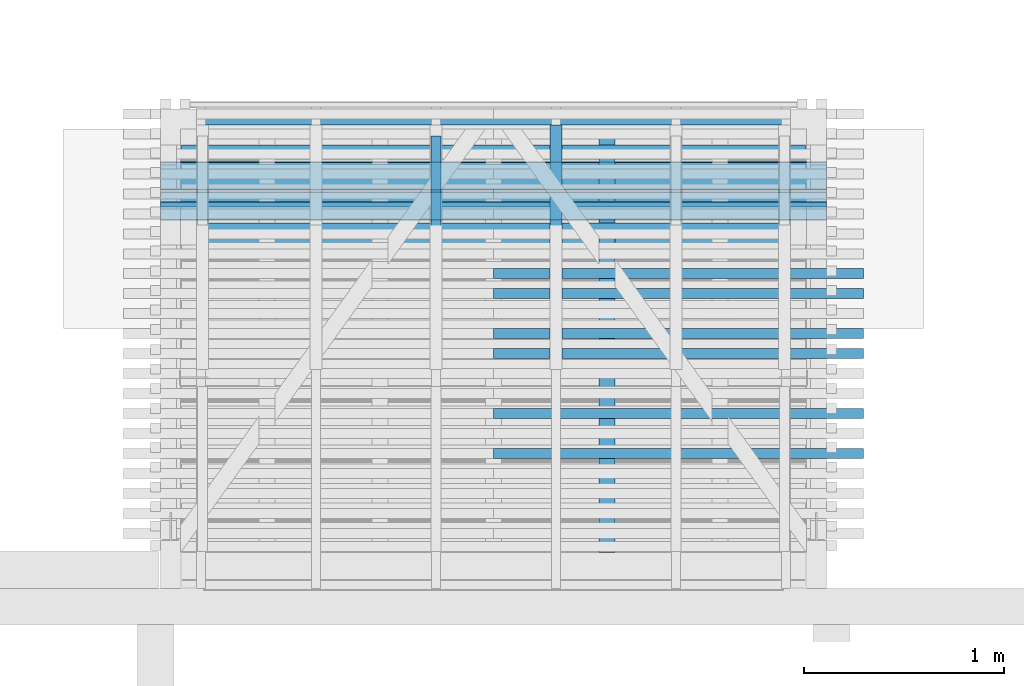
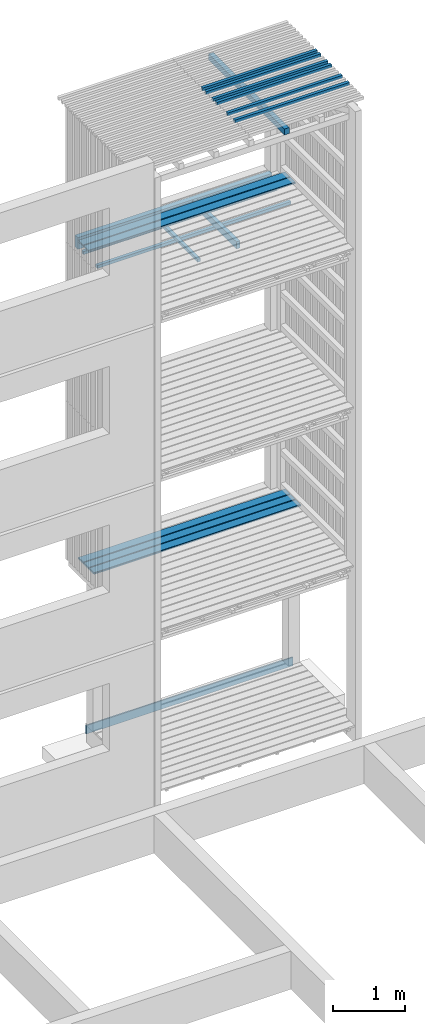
# One storey, part 124 of 182: 18 beams.
"""IFC2X3 building model written with IfcOpenShell, lengths in metres."""

from ifc_helpers import new_model, si_unit, frame, origin, place, context, project, spatial, faceted_brep, element, save


model = new_model("IFC2X3")

# Units and contexts
model_context = context("Model", 3, precision=1e-06, world=origin())
ifc_project = project(units=[si_unit("LENGTHUNIT", "METRE"), si_unit("PLANEANGLEUNIT", "RADIAN")], contexts=[model_context])

# Site, building, storey
site = spatial("IfcSite", under=ifc_project, CompositionType="ELEMENT")
building = spatial("IfcBuilding", under=site, CompositionType="ELEMENT")
storey = spatial("IfcBuildingStorey", under=building, Name="vs", CompositionType="ELEMENT", Elevation=-0.85)

# Beams
placement = place(None, origin())
beam_1_placement = place(placement, frame((54.40299999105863, 7.135077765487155, 7.91739999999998), z_axis=(0.0, 0.0, 1.0), x_axis=(0.0, -1.0, 0.0)))
element("IfcBeam", 1, at=beam_1_placement, inside=storey, Name="Calage", context=model_context, shape_type="Brep", body=[
    faceted_brep([(1.115000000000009, 0.024999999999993, 0.024999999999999), (1.115000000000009, -0.025000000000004, 0.024999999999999), (1.115000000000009, -0.025000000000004, -0.025), (1.115000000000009, 0.024999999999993, -0.025), (0.0, -0.025000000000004, -0.025), (0.0, -0.025000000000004, 0.024999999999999), (0.0, 0.024999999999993, 0.024999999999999), (0.0, 0.024999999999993, -0.025), (1.115000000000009, -0.025000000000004, 0.024999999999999), (1.115000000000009, 0.024999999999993, 0.024999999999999), (0.0, 0.024999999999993, 0.024999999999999), (0.0, -0.025000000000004, 0.024999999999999), (1.115000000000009, -0.025000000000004, -0.025), (1.115000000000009, -0.025000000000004, 0.024999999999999), (0.0, -0.025000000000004, 0.024999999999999), (0.0, -0.025000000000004, -0.025), (1.115000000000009, 0.024999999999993, -0.025), (1.115000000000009, -0.025000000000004, -0.025), (0.0, -0.025000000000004, -0.025), (0.0, 0.024999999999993, -0.025), (0.0, 0.024999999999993, 0.024999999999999), (1.115000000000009, 0.024999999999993, 0.024999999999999), (1.115000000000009, 0.024999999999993, -0.025), (0.0, 0.024999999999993, -0.025)], [[[0, 1, 2, 3]], [[4, 5, 6, 7]], [[8, 9, 10, 11]], [[12, 13, 14, 15]], [[16, 17, 18, 19]], [[20, 21, 22, 23]]]),
])
beam_2_placement = place(placement, frame((56.24999999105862, 7.06299443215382, 7.86739999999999), z_axis=(0.0, 0.0, 1.0), x_axis=(-1.0, -1e-15, 0.0)))
element("IfcBeam", 2, at=beam_2_placement, inside=storey, Name="Bardage", context=model_context, shape_type="Brep", body=[
    faceted_brep([(3.120000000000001, 0.024999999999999, -0.024999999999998), (3.120000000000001, 0.024999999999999, 0.025000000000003), (3.120000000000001, -0.025000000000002, 0.025000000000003), (3.120000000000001, -0.025000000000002, -0.024999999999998), (-3e-15, -0.024999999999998, -0.024999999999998), (-3e-15, -0.024999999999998, 0.025000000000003), (-3e-15, 0.025000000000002, 0.025000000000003), (-3e-15, 0.025000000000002, -0.024999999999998), (-3e-15, 0.025000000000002, -0.024999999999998), (-3e-15, 0.025000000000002, 0.025000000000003), (3.120000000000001, 0.024999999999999, 0.025000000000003), (3.120000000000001, 0.024999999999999, -0.024999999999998), (-3e-15, 0.025000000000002, 0.025000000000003), (-3e-15, -0.024999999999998, 0.025000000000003), (3.120000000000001, -0.025000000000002, 0.025000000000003), (3.120000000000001, 0.024999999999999, 0.025000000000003), (-3e-15, -0.024999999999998, 0.025000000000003), (-3e-15, -0.024999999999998, -0.024999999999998), (3.120000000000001, -0.025000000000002, -0.024999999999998), (3.120000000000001, -0.025000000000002, 0.025000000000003), (-3e-15, -0.024999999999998, -0.024999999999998), (-3e-15, 0.025000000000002, -0.024999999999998), (3.120000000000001, 0.024999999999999, -0.024999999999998), (3.120000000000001, -0.025000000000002, -0.024999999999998)], [[[0, 1, 2, 3]], [[4, 5, 6, 7]], [[8, 9, 10, 11]], [[12, 13, 14, 15]], [[16, 17, 18, 19]], [[20, 21, 22, 23]]]),
])
beam_3_placement = place(placement, frame((53.02499999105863, 6.793577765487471, -0.0575), z_axis=(0.0, 0.0, -1.0), x_axis=(1.0, 0.0, 0.0)))
element("IfcBeam", 3, at=beam_3_placement, inside=storey, Name="Caillebotis", context=model_context, shape_type="Brep", body=[
    faceted_brep([(2e-15, -0.008499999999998, -0.0725), (2e-15, -0.0135, -0.067500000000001), (2e-15, -0.0135, 0.067500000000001), (2e-15, -0.008500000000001, 0.0725), (2e-15, 0.013500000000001, 0.0725), (2e-15, 0.013500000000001, -0.0725), (3.329999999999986, 0.013499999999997, -0.0725), (3.329999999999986, 0.013499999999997, 0.0725), (3.329999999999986, -0.008500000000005, 0.0725), (3.329999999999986, -0.0135, 0.067500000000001), (3.329999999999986, -0.0135, -0.067500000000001), (3.329999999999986, -0.008500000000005, -0.0725), (2e-15, -0.0135, 0.067500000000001), (2e-15, -0.0135, -0.067500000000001), (3.329999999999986, -0.0135, -0.067500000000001), (3.329999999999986, -0.0135, 0.067500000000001), (2e-15, -0.008500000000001, 0.0725), (2e-15, -0.0135, 0.067500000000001), (3.329999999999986, -0.0135, 0.067500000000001), (3.329999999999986, -0.008500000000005, 0.0725), (2e-15, 0.013500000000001, 0.0725), (2e-15, -0.008500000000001, 0.0725), (3.329999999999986, -0.008500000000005, 0.0725), (3.329999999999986, 0.013499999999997, 0.0725), (2e-15, 0.013500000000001, -0.0725), (2e-15, 0.013500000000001, 0.0725), (3.329999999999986, 0.013499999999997, 0.0725), (3.329999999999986, 0.013499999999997, -0.0725), (2e-15, -0.008499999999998, -0.0725), (2e-15, 0.013500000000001, -0.0725), (3.329999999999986, 0.013499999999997, -0.0725), (3.329999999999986, -0.008500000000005, -0.0725), (3.329999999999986, -0.0135, -0.067500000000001), (2e-15, -0.0135, -0.067500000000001), (2e-15, -0.008499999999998, -0.0725), (3.329999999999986, -0.008500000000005, -0.0725)], [[[0, 1, 2, 3, 4, 5]], [[6, 7, 8, 9, 10, 11]], [[12, 13, 14, 15]], [[16, 17, 18, 19]], [[20, 21, 22, 23]], [[24, 25, 26, 27]], [[28, 29, 30, 31]], [[32, 33, 34, 35]]]),
])
beam_4_placement = place(placement, frame((56.24999999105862, 6.674661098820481, 7.86739999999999), z_axis=(0.0, 0.0, 1.0), x_axis=(-1.0, 0.0, 0.0)))
element("IfcBeam", 4, at=beam_4_placement, inside=storey, Name="Bardage", context=model_context, shape_type="Brep", body=[
    faceted_brep([(3.119999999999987, 0.024999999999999, 0.025000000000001), (3.119999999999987, -0.024999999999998, 0.025000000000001), (3.119999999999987, -0.024999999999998, -0.024999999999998), (3.119999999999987, 0.024999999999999, -0.024999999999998), (-3e-15, -0.025000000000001, 0.025000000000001), (-3e-15, 0.024999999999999, 0.025000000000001), (-3e-15, 0.024999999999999, -0.024999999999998), (-3e-15, -0.025000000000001, -0.024999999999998), (3.119999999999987, 0.024999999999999, -0.024999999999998), (3.119999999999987, -0.024999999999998, -0.024999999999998), (-3e-15, -0.025000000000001, -0.024999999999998), (-3e-15, 0.024999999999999, -0.024999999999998), (-3e-15, -0.025000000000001, -0.024999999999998), (3.119999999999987, -0.024999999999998, -0.024999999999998), (3.119999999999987, -0.024999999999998, 0.025000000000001), (-3e-15, -0.025000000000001, 0.025000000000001), (-3e-15, -0.025000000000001, 0.025000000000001), (3.119999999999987, -0.024999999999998, 0.025000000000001), (3.119999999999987, 0.024999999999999, 0.025000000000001), (-3e-15, 0.024999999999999, 0.025000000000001), (-3e-15, 0.024999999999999, 0.025000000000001), (3.119999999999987, 0.024999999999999, 0.025000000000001), (3.119999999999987, 0.024999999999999, -0.024999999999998), (-3e-15, 0.024999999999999, -0.024999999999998)], [[[0, 1, 2, 3]], [[4, 5, 6, 7]], [[8, 9, 10, 11]], [[12, 13, 14, 15]], [[16, 17, 18, 19]], [[20, 21, 22, 23]]]),
])
beam_5_placement = place(placement, frame((56.35499999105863, 6.934577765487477, 8.13349999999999), z_axis=(0.0, 0.0, 1.0), x_axis=(-1.0, -1e-15, 0.0)))
element("IfcBeam", 5, at=beam_5_placement, inside=storey, Name="Caillebotis", context=model_context, shape_type="Brep", body=[
    faceted_brep([(3.329999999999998, -0.072500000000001, -0.013500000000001), (3.329999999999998, 0.072500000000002, -0.013500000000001), (3.329999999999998, 0.072500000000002, 0.0085), (3.329999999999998, 0.067499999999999, 0.013499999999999), (3.329999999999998, -0.067499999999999, 0.013499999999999), (3.329999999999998, -0.072500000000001, 0.0085), (0.0, -0.072499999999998, 0.0085), (0.0, -0.067499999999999, 0.013499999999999), (0.0, 0.067500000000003, 0.013499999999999), (0.0, 0.072500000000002, 0.0085), (0.0, 0.072500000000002, -0.013500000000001), (0.0, -0.072499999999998, -0.013500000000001), (3.329999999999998, 0.072500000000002, 0.0085), (3.329999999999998, 0.072500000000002, -0.013500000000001), (0.0, 0.072500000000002, -0.013500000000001), (0.0, 0.072500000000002, 0.0085), (3.329999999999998, 0.067499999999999, 0.013499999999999), (3.329999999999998, 0.072500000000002, 0.0085), (0.0, 0.072500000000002, 0.0085), (0.0, 0.067500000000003, 0.013499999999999), (3.329999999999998, -0.067499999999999, 0.013499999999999), (3.329999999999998, 0.067499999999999, 0.013499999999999), (0.0, 0.067500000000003, 0.013499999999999), (0.0, -0.067499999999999, 0.013499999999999), (3.329999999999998, -0.072500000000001, 0.0085), (3.329999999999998, -0.067499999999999, 0.013499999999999), (0.0, -0.067499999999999, 0.013499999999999), (0.0, -0.072499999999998, 0.0085), (3.329999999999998, -0.072500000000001, -0.013500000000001), (3.329999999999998, -0.072500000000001, 0.0085), (0.0, -0.072499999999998, 0.0085), (0.0, -0.072499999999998, -0.013500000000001), (0.0, 0.072500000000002, -0.013500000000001), (3.329999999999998, 0.072500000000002, -0.013500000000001), (3.329999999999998, -0.072500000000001, -0.013500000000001), (0.0, -0.072499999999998, -0.013500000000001)], [[[0, 1, 2, 3, 4, 5]], [[6, 7, 8, 9, 10, 11]], [[12, 13, 14, 15]], [[16, 17, 18, 19]], [[20, 21, 22, 23]], [[24, 25, 26, 27]], [[28, 29, 30, 31]], [[32, 33, 34, 35]]]),
])
beam_6_placement = place(placement, frame((56.35499999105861, 6.784577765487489, 2.733499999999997), z_axis=(0.0, 0.0, 1.0), x_axis=(-1.0, -1e-14, 0.0)))
element("IfcBeam", 6, at=beam_6_placement, inside=storey, Name="Caillebotis", context=model_context, shape_type="Brep", body=[
    faceted_brep([(3.329999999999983, -0.072500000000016, -0.0135), (3.329999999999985, 0.072499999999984, -0.0135), (3.329999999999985, 0.072499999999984, 0.0085), (3.329999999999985, 0.067499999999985, 0.0135), (3.329999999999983, -0.067500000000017, 0.0135), (3.329999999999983, -0.072500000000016, 0.008500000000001), (-1.5e-14, -0.072499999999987, 0.008500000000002), (-1.5e-14, -0.067499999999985, 0.0135), (-1.4e-14, 0.067500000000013, 0.0135), (-1.4e-14, 0.072500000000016, 0.0085), (-1.4e-14, 0.072500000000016, -0.0135), (-1.5e-14, -0.072499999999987, -0.0135), (3.329999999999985, 0.072499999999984, 0.0085), (3.329999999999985, 0.072499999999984, -0.0135), (-1.4e-14, 0.072500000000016, -0.0135), (-1.4e-14, 0.072500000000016, 0.0085), (3.329999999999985, 0.067499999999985, 0.0135), (3.329999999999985, 0.072499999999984, 0.0085), (-1.4e-14, 0.072500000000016, 0.0085), (-1.4e-14, 0.067500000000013, 0.0135), (3.329999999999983, -0.067500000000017, 0.0135), (3.329999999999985, 0.067499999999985, 0.0135), (-1.4e-14, 0.067500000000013, 0.0135), (-1.5e-14, -0.067499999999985, 0.0135), (3.329999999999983, -0.072500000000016, 0.008500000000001), (3.329999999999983, -0.067500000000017, 0.0135), (-1.5e-14, -0.067499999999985, 0.0135), (-1.5e-14, -0.072499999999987, 0.008500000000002), (3.329999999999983, -0.072500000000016, -0.0135), (3.329999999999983, -0.072500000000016, 0.008500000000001), (-1.5e-14, -0.072499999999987, 0.008500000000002), (-1.5e-14, -0.072499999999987, -0.0135), (-1.4e-14, 0.072500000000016, -0.0135), (3.329999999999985, 0.072499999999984, -0.0135), (3.329999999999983, -0.072500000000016, -0.0135), (-1.5e-14, -0.072499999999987, -0.0135)], [[[0, 1, 2, 3, 4, 5]], [[6, 7, 8, 9, 10, 11]], [[12, 13, 14, 15]], [[16, 17, 18, 19]], [[20, 21, 22, 23]], [[24, 25, 26, 27]], [[28, 29, 30, 31]], [[32, 33, 34, 35]]]),
])
beam_7_placement = place(placement, frame((56.35499999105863, 6.634577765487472, 2.733499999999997), z_axis=(0.0, 0.0, 1.0), x_axis=(-1.0, 0.0, 0.0)))
element("IfcBeam", 7, at=beam_7_placement, inside=storey, Name="Caillebotis", context=model_context, shape_type="Brep", body=[
    faceted_brep([(3.329999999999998, -0.072499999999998, -0.0135), (3.329999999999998, 0.072499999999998, -0.0135), (3.329999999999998, 0.072499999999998, 0.0085), (3.329999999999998, 0.067500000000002, 0.0135), (3.329999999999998, -0.067500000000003, 0.0135), (3.329999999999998, -0.072499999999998, 0.008500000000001), (0.0, -0.072500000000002, 0.008500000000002), (0.0, -0.067500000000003, 0.0135), (0.0, 0.067499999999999, 0.0135), (0.0, 0.072499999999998, 0.0085), (0.0, 0.072499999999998, -0.0135), (0.0, -0.072500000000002, -0.0135), (3.329999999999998, 0.072499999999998, 0.0085), (3.329999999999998, 0.072499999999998, -0.0135), (0.0, 0.072499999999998, -0.0135), (0.0, 0.072499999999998, 0.0085), (3.329999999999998, 0.067500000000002, 0.0135), (3.329999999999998, 0.072499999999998, 0.0085), (0.0, 0.072499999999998, 0.0085), (0.0, 0.067499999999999, 0.0135), (3.329999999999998, -0.067500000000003, 0.0135), (3.329999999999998, 0.067500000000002, 0.0135), (0.0, 0.067499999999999, 0.0135), (0.0, -0.067500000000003, 0.0135), (3.329999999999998, -0.072499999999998, 0.008500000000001), (3.329999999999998, -0.067500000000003, 0.0135), (0.0, -0.067500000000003, 0.0135), (0.0, -0.072500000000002, 0.008500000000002), (3.329999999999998, -0.072499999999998, -0.0135), (3.329999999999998, -0.072499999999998, 0.008500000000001), (0.0, -0.072500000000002, 0.008500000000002), (0.0, -0.072500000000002, -0.0135), (0.0, 0.072499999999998, -0.0135), (3.329999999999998, 0.072499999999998, -0.0135), (3.329999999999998, -0.072499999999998, -0.0135), (0.0, -0.072500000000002, -0.0135)], [[[0, 1, 2, 3, 4, 5]], [[6, 7, 8, 9, 10, 11]], [[12, 13, 14, 15]], [[16, 17, 18, 19]], [[20, 21, 22, 23]], [[24, 25, 26, 27]], [[28, 29, 30, 31]], [[32, 33, 34, 35]]]),
])
beam_8_placement = place(placement, frame((56.35499999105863, 6.784577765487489, 8.13349999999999), z_axis=(0.0, 0.0, 1.0), x_axis=(-1.0, -1e-14, 0.0)))
element("IfcBeam", 8, at=beam_8_placement, inside=storey, Name="Caillebotis", context=model_context, shape_type="Brep", body=[
    faceted_brep([(3.329999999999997, -0.072500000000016, -0.013500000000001), (3.329999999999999, 0.072499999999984, -0.013500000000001), (3.329999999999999, 0.072499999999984, 0.008499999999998), (3.329999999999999, 0.067499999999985, 0.013499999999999), (3.329999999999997, -0.067500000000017, 0.013499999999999), (3.329999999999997, -0.072500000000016, 0.0085), (-1e-15, -0.072499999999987, 0.0085), (-1e-15, -0.067499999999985, 0.013499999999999), (1e-15, 0.067500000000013, 0.013499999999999), (1e-15, 0.072500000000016, 0.008499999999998), (1e-15, 0.072500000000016, -0.013500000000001), (-1e-15, -0.072499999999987, -0.013500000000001), (3.329999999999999, 0.072499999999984, 0.008499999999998), (3.329999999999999, 0.072499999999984, -0.013500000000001), (1e-15, 0.072500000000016, -0.013500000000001), (1e-15, 0.072500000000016, 0.008499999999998), (3.329999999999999, 0.067499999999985, 0.013499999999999), (3.329999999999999, 0.072499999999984, 0.008499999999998), (1e-15, 0.072500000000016, 0.008499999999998), (1e-15, 0.067500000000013, 0.013499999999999), (3.329999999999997, -0.067500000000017, 0.013499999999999), (3.329999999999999, 0.067499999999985, 0.013499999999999), (1e-15, 0.067500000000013, 0.013499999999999), (-1e-15, -0.067499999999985, 0.013499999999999), (3.329999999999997, -0.072500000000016, 0.0085), (3.329999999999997, -0.067500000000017, 0.013499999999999), (-1e-15, -0.067499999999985, 0.013499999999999), (-1e-15, -0.072499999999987, 0.0085), (3.329999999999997, -0.072500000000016, -0.013500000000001), (3.329999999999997, -0.072500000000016, 0.0085), (-1e-15, -0.072499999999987, 0.0085), (-1e-15, -0.072499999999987, -0.013500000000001), (1e-15, 0.072500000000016, -0.013500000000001), (3.329999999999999, 0.072499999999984, -0.013500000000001), (3.329999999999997, -0.072500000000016, -0.013500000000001), (-1e-15, -0.072499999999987, -0.013500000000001)], [[[0, 1, 2, 3, 4, 5]], [[6, 7, 8, 9, 10, 11]], [[12, 13, 14, 15]], [[16, 17, 18, 19]], [[20, 21, 22, 23]], [[24, 25, 26, 27]], [[28, 29, 30, 31]], [[32, 33, 34, 35]]]),
])
beam_9_placement = place(placement, frame((55.00299999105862, 5.965077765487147, 8.00424999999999), z_axis=(0.0, 0.0, 1.0), x_axis=(0.0, 1.0, 0.0)))
element("IfcBeam", 9, at=beam_9_placement, inside=storey, Name="Solive", context=model_context, shape_type="Brep", body=[
    faceted_brep([(0.0, -0.030000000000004, -0.061849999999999), (1.225000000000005, -0.030000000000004, -0.061849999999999), (1.225000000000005, -0.030000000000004, 0.037349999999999), (0.0, -0.030000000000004, 0.061849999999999), (0.0, 0.029999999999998, 0.061850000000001), (0.0, 0.029999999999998, -0.061849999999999), (0.0, -0.030000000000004, -0.061849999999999), (0.0, -0.030000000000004, 0.061849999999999), (0.0, -0.030000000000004, -0.061849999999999), (0.0, 0.029999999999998, -0.061849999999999), (1.225000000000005, 0.029999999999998, -0.061849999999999), (1.225000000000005, -0.030000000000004, -0.061849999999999), (1.225000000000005, 0.029999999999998, -0.061849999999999), (0.0, 0.029999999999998, -0.061849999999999), (0.0, 0.029999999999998, 0.061850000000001), (1.225000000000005, 0.029999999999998, 0.037349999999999), (1.225000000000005, -0.030000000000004, 0.037349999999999), (1.225000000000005, -0.030000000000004, -0.061849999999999), (1.225000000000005, 0.029999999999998, -0.061849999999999), (1.225000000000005, 0.029999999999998, 0.037349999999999), (0.0, -0.030000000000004, 0.061849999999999), (1.225000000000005, -0.030000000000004, 0.037349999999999), (1.225000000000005, 0.029999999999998, 0.037349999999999), (0.0, 0.029999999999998, 0.061850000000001)], [[[0, 1, 2, 3]], [[4, 5, 6, 7]], [[8, 9, 10, 11]], [[12, 13, 14, 15]], [[16, 17, 18, 19]], [[20, 21, 22, 23]]]),
])
beam_10_placement = place(placement, frame((56.25499999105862, 7.230077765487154, 7.93999999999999), z_axis=(0.0, 0.0, 1.0), x_axis=(-1.0, 0.0, 0.0)))
element("IfcBeam", 10, at=beam_10_placement, inside=storey, Name="Sommier", context=model_context, shape_type="Brep", body=[
    faceted_brep([(3.129999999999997, -0.039999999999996, 0.1), (3.129999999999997, 0.040000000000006, 0.1), (1e-15, 0.040000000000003, 0.1), (1e-15, -0.039999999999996, 0.1), (3.129999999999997, -0.039999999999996, -0.100000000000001), (3.129999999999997, -0.039999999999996, 0.1), (1e-15, -0.039999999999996, 0.1), (1e-15, -0.039999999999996, -0.100000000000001), (3.129999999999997, -0.039999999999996, 0.1), (3.129999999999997, -0.039999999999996, -0.100000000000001), (3.129999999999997, 0.040000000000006, -0.1), (3.129999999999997, 0.040000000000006, 0.1), (3.129999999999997, 0.040000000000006, -0.1), (3.129999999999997, -0.039999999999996, -0.100000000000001), (1e-15, -0.039999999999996, -0.100000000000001), (1e-15, 0.040000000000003, -0.100000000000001), (1e-15, 0.040000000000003, 0.1), (3.129999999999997, 0.040000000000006, 0.1), (3.129999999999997, 0.040000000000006, -0.1), (1e-15, 0.040000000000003, -0.100000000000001), (1e-15, -0.039999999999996, 0.1), (1e-15, 0.040000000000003, 0.1), (1e-15, 0.040000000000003, -0.100000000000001), (1e-15, -0.039999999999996, -0.100000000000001)], [[[0, 1, 2, 3]], [[4, 5, 6, 7]], [[8, 9, 10, 11]], [[12, 13, 14, 15]], [[16, 17, 18, 19]], [[20, 21, 22, 23]]]),
])
beam_11_placement = place(placement, frame((56.35499999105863, 6.934577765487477, 2.733499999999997), z_axis=(0.0, 0.0, 1.0), x_axis=(-1.0, -1e-15, 0.0)))
element("IfcBeam", 11, at=beam_11_placement, inside=storey, Name="Caillebotis", context=model_context, shape_type="Brep", body=[
    faceted_brep([(3.329999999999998, -0.072500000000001, -0.0135), (3.329999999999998, 0.072500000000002, -0.0135), (3.329999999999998, 0.072500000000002, 0.008500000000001), (3.329999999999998, 0.067499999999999, 0.0135), (3.329999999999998, -0.067499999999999, 0.0135), (3.329999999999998, -0.072500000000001, 0.008500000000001), (0.0, -0.072499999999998, 0.008500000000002), (0.0, -0.067499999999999, 0.0135), (0.0, 0.067500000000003, 0.0135), (0.0, 0.072500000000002, 0.008500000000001), (0.0, 0.072500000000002, -0.0135), (0.0, -0.072499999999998, -0.0135), (3.329999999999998, 0.072500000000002, 0.008500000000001), (3.329999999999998, 0.072500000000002, -0.0135), (0.0, 0.072500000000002, -0.0135), (0.0, 0.072500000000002, 0.008500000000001), (3.329999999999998, 0.067499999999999, 0.0135), (3.329999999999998, 0.072500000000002, 0.008500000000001), (0.0, 0.072500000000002, 0.008500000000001), (0.0, 0.067500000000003, 0.0135), (3.329999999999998, -0.067499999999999, 0.0135), (3.329999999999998, 0.067499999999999, 0.0135), (0.0, 0.067500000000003, 0.0135), (0.0, -0.067499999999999, 0.0135), (3.329999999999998, -0.072500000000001, 0.008500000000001), (3.329999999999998, -0.067499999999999, 0.0135), (0.0, -0.067499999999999, 0.0135), (0.0, -0.072499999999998, 0.008500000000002), (3.329999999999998, -0.072500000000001, -0.0135), (3.329999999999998, -0.072500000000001, 0.008500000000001), (0.0, -0.072499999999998, 0.008500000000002), (0.0, -0.072499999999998, -0.0135), (0.0, 0.072500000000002, -0.0135), (3.329999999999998, 0.072500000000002, -0.0135), (3.329999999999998, -0.072500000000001, -0.0135), (0.0, -0.072499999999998, -0.0135)], [[[0, 1, 2, 3, 4, 5]], [[6, 7, 8, 9, 10, 11]], [[12, 13, 14, 15]], [[16, 17, 18, 19]], [[20, 21, 22, 23]], [[24, 25, 26, 27]], [[28, 29, 30, 31]], [[32, 33, 34, 35]]]),
])
beam_12_placement = place(placement, frame((56.539999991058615, 5.745077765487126, 10.47999999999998), z_axis=(0.0, 0.0, 1.0), x_axis=(-1.0, 0.0, 0.0)))
element("IfcBeam", 12, at=beam_12_placement, inside=storey, Name="Bardage", context=model_context, shape_type="Brep", body=[
    faceted_brep([(-3e-15, 0.025000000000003, 0.025000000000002), (-3e-15, -0.024999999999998, 0.025000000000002), (1.849999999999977, -0.024999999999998, 0.025000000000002), (1.849999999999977, 0.024999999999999, 0.025000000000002), (1.849999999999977, -0.024999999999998, 0.025000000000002), (-3e-15, -0.024999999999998, 0.025000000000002), (-3e-15, -0.024999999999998, -0.024999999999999), (1.849999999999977, -0.024999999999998, -0.024999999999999), (-3e-15, -0.024999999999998, 0.025000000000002), (-3e-15, 0.025000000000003, 0.025000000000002), (-3e-15, 0.025000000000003, -0.024999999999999), (-3e-15, -0.024999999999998, -0.024999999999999), (-3e-15, 0.025000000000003, -0.024999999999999), (-3e-15, 0.025000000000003, 0.025000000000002), (1.849999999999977, 0.024999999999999, 0.025000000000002), (1.849999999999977, 0.024999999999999, -0.024999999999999), (1.849999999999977, -0.024999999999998, -0.024999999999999), (-3e-15, -0.024999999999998, -0.024999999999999), (-3e-15, 0.025000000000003, -0.024999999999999), (1.849999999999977, 0.024999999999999, -0.024999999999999), (1.849999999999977, -0.024999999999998, 0.025000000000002), (1.849999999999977, -0.024999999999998, -0.024999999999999), (1.849999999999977, 0.024999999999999, -0.024999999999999), (1.849999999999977, 0.024999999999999, 0.025000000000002)], [[[0, 1, 2, 3]], [[4, 5, 6, 7]], [[8, 9, 10, 11]], [[12, 13, 14, 15]], [[16, 17, 18, 19]], [[20, 21, 22, 23]]]),
])
beam_13_placement = place(placement, frame((56.539999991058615, 6.345077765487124, 10.47999999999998), z_axis=(0.0, 0.0, 1.0), x_axis=(-1.0, 0.0, 0.0)))
element("IfcBeam", 13, at=beam_13_placement, inside=storey, Name="Bardage", context=model_context, shape_type="Brep", body=[
    faceted_brep([(-3e-15, 0.024999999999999, 0.025000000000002), (-3e-15, -0.025000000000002, 0.025000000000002), (1.849999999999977, -0.025000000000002, 0.025000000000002), (1.849999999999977, 0.024999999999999, 0.025000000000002), (1.849999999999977, -0.025000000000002, 0.025000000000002), (-3e-15, -0.025000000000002, 0.025000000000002), (-3e-15, -0.025000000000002, -0.024999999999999), (1.849999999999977, -0.025000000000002, -0.024999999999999), (-3e-15, -0.025000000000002, 0.025000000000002), (-3e-15, 0.024999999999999, 0.025000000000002), (-3e-15, 0.024999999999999, -0.024999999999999), (-3e-15, -0.025000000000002, -0.024999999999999), (-3e-15, 0.024999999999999, -0.024999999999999), (-3e-15, 0.024999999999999, 0.025000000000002), (1.849999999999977, 0.024999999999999, 0.025000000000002), (1.849999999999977, 0.024999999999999, -0.024999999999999), (1.849999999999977, -0.025000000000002, -0.024999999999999), (-3e-15, -0.025000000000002, -0.024999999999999), (-3e-15, 0.024999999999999, -0.024999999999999), (1.849999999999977, 0.024999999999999, -0.024999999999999), (1.849999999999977, -0.025000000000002, 0.025000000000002), (1.849999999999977, -0.025000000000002, -0.024999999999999), (1.849999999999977, 0.024999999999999, -0.024999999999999), (1.849999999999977, 0.024999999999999, 0.025000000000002)], [[[0, 1, 2, 3]], [[4, 5, 6, 7]], [[8, 9, 10, 11]], [[12, 13, 14, 15]], [[16, 17, 18, 19]], [[20, 21, 22, 23]]]),
])
beam_14_placement = place(placement, frame((55.2566666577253, 5.050077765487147, 10.404999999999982), z_axis=(0.0, 0.0, 1.0), x_axis=(0.0, 1.0, 0.0)))
element("IfcBeam", 14, at=beam_14_placement, inside=storey, Name="Support bardage", context=model_context, shape_type="Brep", body=[
    faceted_brep([(2.120000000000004, -0.039999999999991, 0.050000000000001), (2.120000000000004, 0.040000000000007, 0.050000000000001), (3e-15, 0.040000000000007, 0.050000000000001), (3e-15, -0.039999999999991, 0.050000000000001), (3e-15, 0.040000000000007, 0.050000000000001), (2.120000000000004, 0.040000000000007, 0.050000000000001), (2.120000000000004, 0.040000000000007, -0.050000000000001), (3e-15, 0.040000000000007, -0.050000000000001), (2.120000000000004, 0.040000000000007, 0.050000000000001), (2.120000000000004, -0.039999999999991, 0.050000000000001), (2.120000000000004, -0.039999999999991, -0.050000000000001), (2.120000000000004, 0.040000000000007, -0.050000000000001), (2.120000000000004, -0.039999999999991, -0.050000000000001), (2.120000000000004, -0.039999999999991, 0.050000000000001), (3e-15, -0.039999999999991, 0.050000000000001), (3e-15, -0.039999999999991, -0.050000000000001), (3e-15, 0.040000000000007, -0.050000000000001), (2.120000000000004, 0.040000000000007, -0.050000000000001), (2.120000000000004, -0.039999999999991, -0.050000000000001), (3e-15, -0.039999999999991, -0.050000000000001), (3e-15, 0.040000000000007, 0.050000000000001), (3e-15, 0.040000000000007, -0.050000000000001), (3e-15, -0.039999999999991, -0.050000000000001), (3e-15, -0.039999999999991, 0.050000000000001)], [[[0, 1, 2, 3]], [[4, 5, 6, 7]], [[8, 9, 10, 11]], [[12, 13, 14, 15]], [[16, 17, 18, 19]], [[20, 21, 22, 23]]]),
])
beam_15_placement = place(placement, frame((56.539999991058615, 6.045077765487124, 10.47999999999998), z_axis=(0.0, 0.0, 1.0), x_axis=(-1.0, 0.0, 0.0)))
element("IfcBeam", 15, at=beam_15_placement, inside=storey, Name="Bardage", context=model_context, shape_type="Brep", body=[
    faceted_brep([(-3e-15, 0.024999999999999, 0.025000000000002), (-3e-15, -0.025000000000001, 0.025000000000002), (1.849999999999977, -0.025000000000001, 0.025000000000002), (1.849999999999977, 0.024999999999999, 0.025000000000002), (1.849999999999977, -0.025000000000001, 0.025000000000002), (-3e-15, -0.025000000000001, 0.025000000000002), (-3e-15, -0.025000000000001, -0.024999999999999), (1.849999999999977, -0.025000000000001, -0.024999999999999), (-3e-15, -0.025000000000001, 0.025000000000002), (-3e-15, 0.024999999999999, 0.025000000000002), (-3e-15, 0.024999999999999, -0.024999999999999), (-3e-15, -0.025000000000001, -0.024999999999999), (-3e-15, 0.024999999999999, -0.024999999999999), (-3e-15, 0.024999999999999, 0.025000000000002), (1.849999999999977, 0.024999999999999, 0.025000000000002), (1.849999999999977, 0.024999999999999, -0.024999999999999), (1.849999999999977, -0.025000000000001, -0.024999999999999), (-3e-15, -0.025000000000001, -0.024999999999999), (-3e-15, 0.024999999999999, -0.024999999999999), (1.849999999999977, 0.024999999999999, -0.024999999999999), (1.849999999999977, -0.025000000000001, 0.025000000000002), (1.849999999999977, -0.025000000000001, -0.024999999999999), (1.849999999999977, 0.024999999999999, -0.024999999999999), (1.849999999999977, 0.024999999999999, 0.025000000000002)], [[[0, 1, 2, 3]], [[4, 5, 6, 7]], [[8, 9, 10, 11]], [[12, 13, 14, 15]], [[16, 17, 18, 19]], [[20, 21, 22, 23]]]),
])
beam_16_placement = place(placement, frame((56.539999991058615, 6.445077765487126, 10.47999999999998), z_axis=(0.0, 0.0, 1.0), x_axis=(-1.0, 0.0, 0.0)))
element("IfcBeam", 16, at=beam_16_placement, inside=storey, Name="Bardage", context=model_context, shape_type="Brep", body=[
    faceted_brep([(-3e-15, 0.025000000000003, 0.025000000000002), (-3e-15, -0.024999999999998, 0.025000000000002), (1.849999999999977, -0.025000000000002, 0.025000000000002), (1.849999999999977, 0.025000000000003, 0.025000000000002), (1.849999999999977, -0.025000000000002, 0.025000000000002), (-3e-15, -0.024999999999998, 0.025000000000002), (-3e-15, -0.024999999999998, -0.024999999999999), (1.849999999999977, -0.025000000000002, -0.024999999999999), (-3e-15, -0.024999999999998, 0.025000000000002), (-3e-15, 0.025000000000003, 0.025000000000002), (-3e-15, 0.025000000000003, -0.024999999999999), (-3e-15, -0.024999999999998, -0.024999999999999), (-3e-15, 0.025000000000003, -0.024999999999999), (-3e-15, 0.025000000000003, 0.025000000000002), (1.849999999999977, 0.025000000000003, 0.025000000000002), (1.849999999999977, 0.025000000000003, -0.024999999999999), (1.849999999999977, -0.025000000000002, -0.024999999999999), (-3e-15, -0.024999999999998, -0.024999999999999), (-3e-15, 0.025000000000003, -0.024999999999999), (1.849999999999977, 0.025000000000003, -0.024999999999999), (1.849999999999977, -0.025000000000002, 0.025000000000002), (1.849999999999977, -0.025000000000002, -0.024999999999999), (1.849999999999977, 0.025000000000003, -0.024999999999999), (1.849999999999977, 0.025000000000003, 0.025000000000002)], [[[0, 1, 2, 3]], [[4, 5, 6, 7]], [[8, 9, 10, 11]], [[12, 13, 14, 15]], [[16, 17, 18, 19]], [[20, 21, 22, 23]]]),
])
beam_17_placement = place(placement, frame((56.539999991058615, 5.545077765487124, 10.47999999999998), z_axis=(0.0, 0.0, 1.0), x_axis=(-1.0, 0.0, 0.0)))
element("IfcBeam", 17, at=beam_17_placement, inside=storey, Name="Bardage", context=model_context, shape_type="Brep", body=[
    faceted_brep([(-3e-15, 0.024999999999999, 0.025000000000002), (-3e-15, -0.025000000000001, 0.025000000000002), (1.849999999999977, -0.025000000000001, 0.025000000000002), (1.849999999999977, 0.024999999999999, 0.025000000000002), (1.849999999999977, -0.025000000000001, 0.025000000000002), (-3e-15, -0.025000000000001, 0.025000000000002), (-3e-15, -0.025000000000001, -0.024999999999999), (1.849999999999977, -0.025000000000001, -0.024999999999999), (-3e-15, -0.025000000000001, 0.025000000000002), (-3e-15, 0.024999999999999, 0.025000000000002), (-3e-15, 0.024999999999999, -0.024999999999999), (-3e-15, -0.025000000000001, -0.024999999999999), (-3e-15, 0.024999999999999, -0.024999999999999), (-3e-15, 0.024999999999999, 0.025000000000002), (1.849999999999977, 0.024999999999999, 0.025000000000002), (1.849999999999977, 0.024999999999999, -0.024999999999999), (1.849999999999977, -0.025000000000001, -0.024999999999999), (-3e-15, -0.025000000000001, -0.024999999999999), (-3e-15, 0.024999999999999, -0.024999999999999), (1.849999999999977, 0.024999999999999, -0.024999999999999), (1.849999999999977, -0.025000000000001, 0.025000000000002), (1.849999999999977, -0.025000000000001, -0.024999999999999), (1.849999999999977, 0.024999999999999, -0.024999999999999), (1.849999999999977, 0.024999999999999, 0.025000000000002)], [[[0, 1, 2, 3]], [[4, 5, 6, 7]], [[8, 9, 10, 11]], [[12, 13, 14, 15]], [[16, 17, 18, 19]], [[20, 21, 22, 23]]]),
])
beam_18_placement = place(placement, frame((56.539999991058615, 6.145077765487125, 10.47999999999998), z_axis=(0.0, 0.0, 1.0), x_axis=(-1.0, 0.0, 0.0)))
element("IfcBeam", 18, at=beam_18_placement, inside=storey, Name="Bardage", context=model_context, shape_type="Brep", body=[
    faceted_brep([(-3e-15, 0.024999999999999, 0.025000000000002), (-3e-15, -0.024999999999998, 0.025000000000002), (1.849999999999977, -0.024999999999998, 0.025000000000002), (1.849999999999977, 0.024999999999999, 0.025000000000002), (1.849999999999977, -0.024999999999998, 0.025000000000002), (-3e-15, -0.024999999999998, 0.025000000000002), (-3e-15, -0.024999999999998, -0.024999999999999), (1.849999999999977, -0.024999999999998, -0.024999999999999), (-3e-15, -0.024999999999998, 0.025000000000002), (-3e-15, 0.024999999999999, 0.025000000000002), (-3e-15, 0.024999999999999, -0.024999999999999), (-3e-15, -0.024999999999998, -0.024999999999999), (-3e-15, 0.024999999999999, -0.024999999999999), (-3e-15, 0.024999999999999, 0.025000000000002), (1.849999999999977, 0.024999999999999, 0.025000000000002), (1.849999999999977, 0.024999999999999, -0.024999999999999), (1.849999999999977, -0.024999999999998, -0.024999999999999), (-3e-15, -0.024999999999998, -0.024999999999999), (-3e-15, 0.024999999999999, -0.024999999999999), (1.849999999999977, 0.024999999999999, -0.024999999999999), (1.849999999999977, -0.024999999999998, 0.025000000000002), (1.849999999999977, -0.024999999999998, -0.024999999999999), (1.849999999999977, 0.024999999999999, -0.024999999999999), (1.849999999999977, 0.024999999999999, 0.025000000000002)], [[[0, 1, 2, 3]], [[4, 5, 6, 7]], [[8, 9, 10, 11]], [[12, 13, 14, 15]], [[16, 17, 18, 19]], [[20, 21, 22, 23]]]),
])

save(model, "model.ifc")
